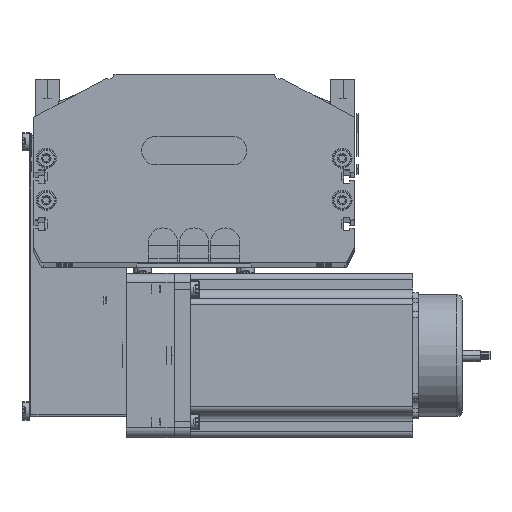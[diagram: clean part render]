
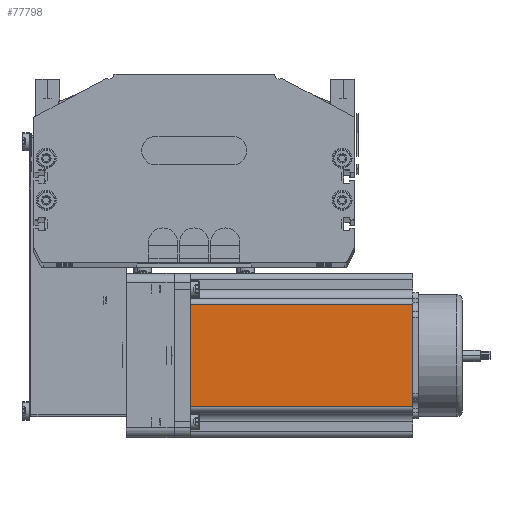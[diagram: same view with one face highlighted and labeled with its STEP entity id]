
A CAD part, top view. The second image highlights one B-rep face of the part: STEP entity #77798.
In plain terms, the highlighted planar face has unit normal (0, 0, 1) as drawn and (0, -1, 0) by its records, which use the part's own axes.
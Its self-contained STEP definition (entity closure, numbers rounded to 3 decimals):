
#64682 = DIRECTION ( 'NONE',  ( 0., 0., -1. ) ) ;
#64683 = VECTOR ( 'NONE', #64682, 1000. ) ;
#64819 = CARTESIAN_POINT ( 'NONE',  ( 16.16, 0., 116.5 ) ) ;
#64820 = LINE ( 'NONE', #64819, #64683 ) ;
#65514 = DIRECTION ( 'NONE',  ( 0., 0., 1. ) ) ;
#65515 = CARTESIAN_POINT ( 'NONE',  ( 69.74, 0., 116.5 ) ) ;
#65539 = VECTOR ( 'NONE', #65514, 1000. ) ;
#65573 = DIRECTION ( 'NONE',  ( 0., 1., 0. ) ) ;
#65596 = DIRECTION ( 'NONE',  ( 0., 0., 1. ) ) ;
#65614 = AXIS2_PLACEMENT_3D ( 'NONE', #65623, #65573, #65596 ) ;
#65618 = LINE ( 'NONE', #65515, #65539 ) ;
#65621 = FACE_OUTER_BOUND ( 'NONE', #77836, .T. ) ;
#65623 = CARTESIAN_POINT ( 'NONE',  ( 0., 0., 116.5 ) ) ;
#65648 = PLANE ( 'NONE',  #65614 ) ;
#77759 = ORIENTED_EDGE ( 'NONE', *, *, #77822, .F. ) ;
#77760 = EDGE_CURVE ( 'NONE', #77821, #77964, #64820, .T. ) ;
#77798 = ADVANCED_FACE ( 'NONE', ( #65621 ), #65648, .F. ) ;
#77799 = ORIENTED_EDGE ( 'NONE', *, *, #77801, .T. ) ;
#77800 = ORIENTED_EDGE ( 'NONE', *, *, #77802, .T. ) ;
#77801 = EDGE_CURVE ( 'NONE', #77945, #77967, #65618, .T. ) ;
#77802 = EDGE_CURVE ( 'NONE', #77964, #77945, #86018, .T. ) ;
#77818 = ORIENTED_EDGE ( 'NONE', *, *, #77760, .T. ) ;
#77821 = VERTEX_POINT ( 'NONE', #82250 ) ;
#77822 = EDGE_CURVE ( 'NONE', #77821, #77967, #82217, .T. ) ;
#77836 = EDGE_LOOP ( 'NONE', ( #77800, #77799, #77759, #77818 ) ) ;
#77945 = VERTEX_POINT ( 'NONE', #84946 ) ;
#77964 = VERTEX_POINT ( 'NONE', #82891 ) ;
#77967 = VERTEX_POINT ( 'NONE', #86011 ) ;
#82094 = DIRECTION ( 'NONE',  ( 1., 0., 0. ) ) ;
#82095 = VECTOR ( 'NONE', #82094, 1000. ) ;
#82216 = CARTESIAN_POINT ( 'NONE',  ( 0., 0., 116.5 ) ) ;
#82217 = LINE ( 'NONE', #82216, #82095 ) ;
#82250 = CARTESIAN_POINT ( 'NONE',  ( 16.16, 0., 116.5 ) ) ;
#82891 = CARTESIAN_POINT ( 'NONE',  ( 16.16, 0., 0. ) ) ;
#84946 = CARTESIAN_POINT ( 'NONE',  ( 69.74, 0., 0. ) ) ;
#86010 = CARTESIAN_POINT ( 'NONE',  ( 0., 0., 0. ) ) ;
#86011 = CARTESIAN_POINT ( 'NONE',  ( 69.74, 0., 116.5 ) ) ;
#86016 = DIRECTION ( 'NONE',  ( 1., 0., 0. ) ) ;
#86017 = VECTOR ( 'NONE', #86016, 1000. ) ;
#86018 = LINE ( 'NONE', #86010, #86017 ) ;
